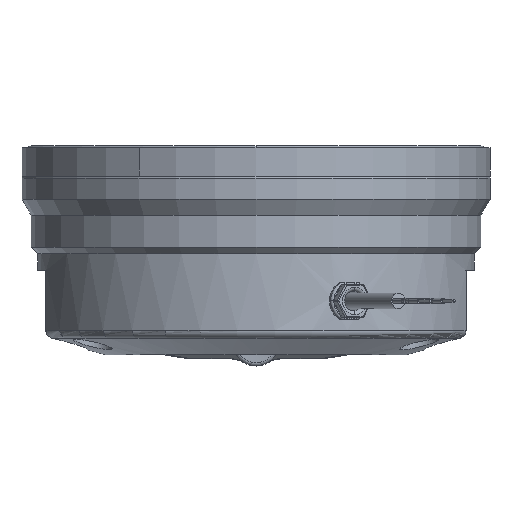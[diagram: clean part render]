
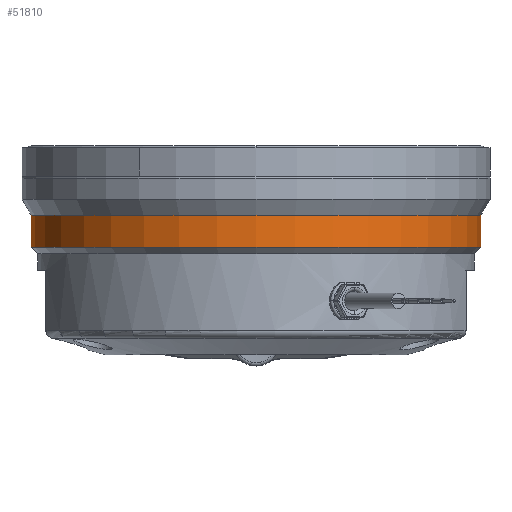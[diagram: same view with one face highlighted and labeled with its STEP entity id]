
A CAD part, front view. The second image highlights one B-rep face of the part: STEP entity #51810.
In plain terms, the highlighted cylindrical face has radius 86.5 mm (diameter 173 mm), a partial arc.
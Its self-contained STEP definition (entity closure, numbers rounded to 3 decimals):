
#414 = DIRECTION ( 'NONE',  ( 1., 0., 0. ) ) ;
#951 = FACE_OUTER_BOUND ( 'NONE', #46934, .T. ) ;
#1037 = CARTESIAN_POINT ( 'NONE',  ( 86.5, 0., 53.8 ) ) ;
#1839 = AXIS2_PLACEMENT_3D ( 'NONE', #12857, #4659, #8612 ) ;
#3148 = DIRECTION ( 'NONE',  ( 0., 0., 1. ) ) ;
#4481 = LINE ( 'NONE', #37835, #31193 ) ;
#4659 = DIRECTION ( 'NONE',  ( 0., 0., 1. ) ) ;
#4672 = DIRECTION ( 'NONE',  ( 0., 0., 1. ) ) ;
#5177 = DIRECTION ( 'NONE',  ( 0., 0., 1. ) ) ;
#7338 = CARTESIAN_POINT ( 'NONE',  ( -86.5, 0., 53.8 ) ) ;
#8612 = DIRECTION ( 'NONE',  ( 1., 0., 0. ) ) ;
#10288 = DIRECTION ( 'NONE',  ( 1., 0., 0. ) ) ;
#11009 = LINE ( 'NONE', #24049, #30559 ) ;
#11623 = CIRCLE ( 'NONE', #56175, 86.5 ) ;
#12857 = CARTESIAN_POINT ( 'NONE',  ( 0., 0., 53.8 ) ) ;
#13730 = CARTESIAN_POINT ( 'NONE',  ( 0., 0., 41.5 ) ) ;
#14401 = EDGE_CURVE ( 'NONE', #23247, #44040, #11623, .T. ) ;
#14531 = CYLINDRICAL_SURFACE ( 'NONE', #29564, 86.5 ) ;
#14717 = CARTESIAN_POINT ( 'NONE',  ( -86.5, 0., 41.5 ) ) ;
#23247 = VERTEX_POINT ( 'NONE', #14717 ) ;
#24049 = CARTESIAN_POINT ( 'NONE',  ( -86.5, 0., 68.8 ) ) ;
#25323 = VERTEX_POINT ( 'NONE', #7338 ) ;
#26845 = CARTESIAN_POINT ( 'NONE',  ( 86.5, 0., 41.5 ) ) ;
#27280 = ORIENTED_EDGE ( 'NONE', *, *, #45883, .F. ) ;
#28732 = ORIENTED_EDGE ( 'NONE', *, *, #14401, .T. ) ;
#29046 = CIRCLE ( 'NONE', #1839, 86.5 ) ;
#29293 = ORIENTED_EDGE ( 'NONE', *, *, #38053, .T. ) ;
#29564 = AXIS2_PLACEMENT_3D ( 'NONE', #31327, #5177, #10288 ) ;
#30559 = VECTOR ( 'NONE', #54551, 1000. ) ;
#31193 = VECTOR ( 'NONE', #3148, 1000. ) ;
#31327 = CARTESIAN_POINT ( 'NONE',  ( 0., 0., 68.8 ) ) ;
#34295 = EDGE_CURVE ( 'NONE', #25323, #53654, #29046, .T. ) ;
#35731 = ORIENTED_EDGE ( 'NONE', *, *, #34295, .F. ) ;
#37835 = CARTESIAN_POINT ( 'NONE',  ( 86.5, 0., 68.8 ) ) ;
#38053 = EDGE_CURVE ( 'NONE', #44040, #53654, #4481, .T. ) ;
#44040 = VERTEX_POINT ( 'NONE', #26845 ) ;
#45883 = EDGE_CURVE ( 'NONE', #23247, #25323, #11009, .T. ) ;
#46934 = EDGE_LOOP ( 'NONE', ( #27280, #28732, #29293, #35731 ) ) ;
#51810 = ADVANCED_FACE ( 'NONE', ( #951 ), #14531, .T. ) ;
#53654 = VERTEX_POINT ( 'NONE', #1037 ) ;
#54551 = DIRECTION ( 'NONE',  ( 0., 0., 1. ) ) ;
#56175 = AXIS2_PLACEMENT_3D ( 'NONE', #13730, #4672, #414 ) ;
